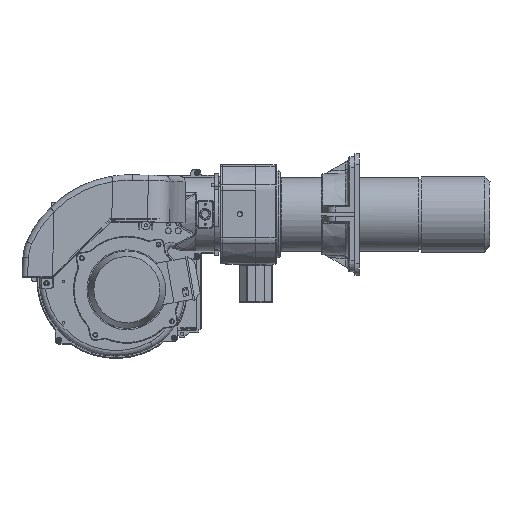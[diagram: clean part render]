
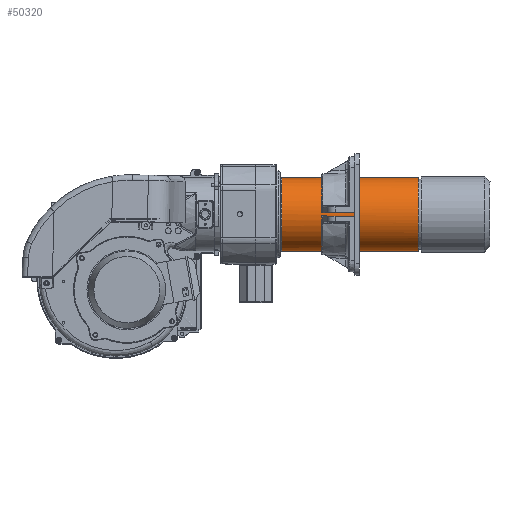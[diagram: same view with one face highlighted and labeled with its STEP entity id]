
A CAD part, top view. The second image highlights one B-rep face of the part: STEP entity #50320.
In plain terms, the highlighted cylindrical face has radius 66.5 mm (diameter 133 mm), a full revolution.
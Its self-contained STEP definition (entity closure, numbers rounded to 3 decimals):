
#4329 = EDGE_CURVE ( 'NONE', #60196, #60196, #85216, .T. ) ;
#5941 = CARTESIAN_POINT ( 'NONE',  ( 280.8, 86.857, -43.945 ) ) ;
#6896 = CARTESIAN_POINT ( 'NONE',  ( 280.8, 132.604, 66.5 ) ) ;
#7253 = CARTESIAN_POINT ( 'NONE',  ( 280.8, 128.252, -66.071 ) ) ;
#7596 = CARTESIAN_POINT ( 'NONE',  ( 280.8, 141.309, -66.5 ) ) ;
#9999 = CARTESIAN_POINT ( 'NONE',  ( 280.8, 145.662, -66.071 ) ) ;
#10459 = CARTESIAN_POINT ( 'NONE',  ( 280.8, 203.028, -8.705 ) ) ;
#10940 = CARTESIAN_POINT ( 'NONE',  ( 280.8, 166.426, 59.772 ) ) ;
#14590 = CARTESIAN_POINT ( 'NONE',  ( 280.8, 119.715, -64.373 ) ) ;
#19732 = CARTESIAN_POINT ( 'NONE',  ( 280.8, 103.63, -57.711 ) ) ;
#21066 = CARTESIAN_POINT ( 'NONE',  ( 280.8, 158.384, -63.104 ) ) ;
#21544 = CARTESIAN_POINT ( 'NONE',  ( 280.8, 203.457, 4.352 ) ) ;
#22018 = CARTESIAN_POINT ( 'NONE',  ( 280.8, 154.199, 64.373 ) ) ;
#22600 = FACE_OUTER_BOUND ( 'NONE', #26718, .T. ) ;
#24092 = B_SPLINE_CURVE_WITH_KNOTS ( 'NONE', 3,
 ( #69522, #6896, #95317, #108983, #109948, #111670, #114484, #115111, #115130, #116695, #118986, #119002, #125096, #136511, #142362, #27374, #54521, #58113, #29073, #83177, #95802, #46472, #62028, #38321, #5941, #107513, #130745, #19732, #103360, #43106, #14590, #7253, #89357, #32593 ),
 .UNSPECIFIED., .F., .F.,
 ( 4, 2, 2, 2, 2, 2, 2, 2, 2, 2, 2, 2, 2, 2, 2, 2, 4 ),
 ( 0., 0.062, 0.125, 0.187, 0.25, 0.312, 0.375, 0.437, 0.5, 0.562, 0.625, 0.688, 0.75, 0.813, 0.875, 0.938, 1. ),
 .UNSPECIFIED. ) ;
#26718 = EDGE_LOOP ( 'NONE', ( #38907, #76484 ) ) ;
#27022 = VERTEX_POINT ( 'NONE', #127994 ) ;
#27059 = FACE_OUTER_BOUND ( 'NONE', #86893, .T. ) ;
#27374 = CARTESIAN_POINT ( 'NONE',  ( 280.8, 70.886, 8.705 ) ) ;
#27588 = CYLINDRICAL_SURFACE ( 'NONE', #85702, 66.5 ) ;
#29073 = CARTESIAN_POINT ( 'NONE',  ( 280.8, 70.886, -8.705 ) ) ;
#29203 = EDGE_CURVE ( 'NONE', #140087, #27022, #24092, .T. ) ;
#32169 = CARTESIAN_POINT ( 'NONE',  ( 280.8, 170.283, -57.711 ) ) ;
#32593 = CARTESIAN_POINT ( 'NONE',  ( 280.8, 136.957, -66.5 ) ) ;
#32645 = CARTESIAN_POINT ( 'NONE',  ( 280.8, 201.33, 17.242 ) ) ;
#33128 = CARTESIAN_POINT ( 'NONE',  ( 280.8, 141.309, 66.5 ) ) ;
#38321 = CARTESIAN_POINT ( 'NONE',  ( 280.8, 84.082, -40.564 ) ) ;
#38907 = ORIENTED_EDGE ( 'NONE', *, *, #74154, .T. ) ;
#42130 = CARTESIAN_POINT ( 'NONE',  ( 528.8, 70.457, 0. ) ) ;
#43106 = CARTESIAN_POINT ( 'NONE',  ( 280.8, 115.53, -63.104 ) ) ;
#43347 = CARTESIAN_POINT ( 'NONE',  ( 280.8, 180.902, -50.1 ) ) ;
#43822 = CARTESIAN_POINT ( 'NONE',  ( 280.8, 196.729, 29.47 ) ) ;
#46472 = CARTESIAN_POINT ( 'NONE',  ( 280.8, 77.185, -29.47 ) ) ;
#50320 = ADVANCED_FACE ( 'NONE', ( #22600, #27059 ), #27588, .T. ) ;
#51021 = CARTESIAN_POINT ( 'NONE',  ( 271.8, 136.957, 0. ) ) ;
#53569 = AXIS2_PLACEMENT_3D ( 'NONE', #103095, #102809, #102776 ) ;
#54413 = CARTESIAN_POINT ( 'NONE',  ( 280.8, 189.832, -40.564 ) ) ;
#54521 = CARTESIAN_POINT ( 'NONE',  ( 280.8, 70.457, 4.352 ) ) ;
#54890 = CARTESIAN_POINT ( 'NONE',  ( 280.8, 189.832, 40.564 ) ) ;
#58113 = CARTESIAN_POINT ( 'NONE',  ( 280.8, 70.457, -4.352 ) ) ;
#60196 = VERTEX_POINT ( 'NONE', #42130 ) ;
#62028 = CARTESIAN_POINT ( 'NONE',  ( 280.8, 79.246, -33.327 ) ) ;
#64927 = CARTESIAN_POINT ( 'NONE',  ( 280.8, 136.957, -66.5 ) ) ;
#65422 = CARTESIAN_POINT ( 'NONE',  ( 280.8, 196.729, -29.47 ) ) ;
#65911 = CARTESIAN_POINT ( 'NONE',  ( 280.8, 180.902, 50.1 ) ) ;
#69522 = CARTESIAN_POINT ( 'NONE',  ( 280.8, 136.957, 66.5 ) ) ;
#74154 = EDGE_CURVE ( 'NONE', #27022, #140087, #115631, .T. ) ;
#75584 = CARTESIAN_POINT ( 'NONE',  ( 280.8, 136.957, 66.5 ) ) ;
#76484 = ORIENTED_EDGE ( 'NONE', *, *, #29203, .T. ) ;
#76489 = CARTESIAN_POINT ( 'NONE',  ( 280.8, 201.33, -17.242 ) ) ;
#76952 = CARTESIAN_POINT ( 'NONE',  ( 280.8, 170.283, 57.711 ) ) ;
#83177 = CARTESIAN_POINT ( 'NONE',  ( 280.8, 72.584, -17.242 ) ) ;
#85216 = CIRCLE ( 'NONE', #53569, 66.5 ) ;
#85702 = AXIS2_PLACEMENT_3D ( 'NONE', #51021, #127611, #116709 ) ;
#86893 = EDGE_LOOP ( 'NONE', ( #114668 ) ) ;
#87000 = CARTESIAN_POINT ( 'NONE',  ( 280.8, 154.199, -64.373 ) ) ;
#87491 = CARTESIAN_POINT ( 'NONE',  ( 280.8, 203.457, -4.352 ) ) ;
#87983 = CARTESIAN_POINT ( 'NONE',  ( 280.8, 158.384, 63.104 ) ) ;
#89357 = CARTESIAN_POINT ( 'NONE',  ( 280.8, 132.604, -66.5 ) ) ;
#95317 = CARTESIAN_POINT ( 'NONE',  ( 280.8, 128.252, 66.071 ) ) ;
#95802 = CARTESIAN_POINT ( 'NONE',  ( 280.8, 73.853, -21.427 ) ) ;
#98070 = CARTESIAN_POINT ( 'NONE',  ( 280.8, 166.426, -59.772 ) ) ;
#98535 = CARTESIAN_POINT ( 'NONE',  ( 280.8, 203.028, 8.705 ) ) ;
#99008 = CARTESIAN_POINT ( 'NONE',  ( 280.8, 145.662, 66.071 ) ) ;
#102776 = DIRECTION ( 'NONE',  ( 0., -1., 0. ) ) ;
#102809 = DIRECTION ( 'NONE',  ( -1., 0., 0. ) ) ;
#103095 = CARTESIAN_POINT ( 'NONE',  ( 528.8, 136.957, 0. ) ) ;
#103360 = CARTESIAN_POINT ( 'NONE',  ( 280.8, 107.487, -59.772 ) ) ;
#107513 = CARTESIAN_POINT ( 'NONE',  ( 280.8, 93.012, -50.1 ) ) ;
#108983 = CARTESIAN_POINT ( 'NONE',  ( 280.8, 119.715, 64.373 ) ) ;
#109036 = CARTESIAN_POINT ( 'NONE',  ( 280.8, 177.521, -52.875 ) ) ;
#109518 = CARTESIAN_POINT ( 'NONE',  ( 280.8, 200.06, 21.427 ) ) ;
#109948 = CARTESIAN_POINT ( 'NONE',  ( 280.8, 115.53, 63.104 ) ) ;
#109999 = CARTESIAN_POINT ( 'NONE',  ( 280.8, 136.957, 66.5 ) ) ;
#111670 = CARTESIAN_POINT ( 'NONE',  ( 280.8, 107.487, 59.772 ) ) ;
#114484 = CARTESIAN_POINT ( 'NONE',  ( 280.8, 103.63, 57.711 ) ) ;
#114668 = ORIENTED_EDGE ( 'NONE', *, *, #4329, .T. ) ;
#115111 = CARTESIAN_POINT ( 'NONE',  ( 280.8, 96.393, 52.875 ) ) ;
#115130 = CARTESIAN_POINT ( 'NONE',  ( 280.8, 93.012, 50.1 ) ) ;
#115631 = B_SPLINE_CURVE_WITH_KNOTS ( 'NONE', 3,
 ( #64927, #7596, #9999, #87000, #21066, #98070, #32169, #109036, #43347, #120005, #54413, #130952, #65422, #141931, #76489, #10459, #87491, #21544, #98535, #32645, #109518, #43822, #120473, #54890, #131436, #65911, #142416, #76952, #10940, #87983, #22018, #99008, #33128, #109999 ),
 .UNSPECIFIED., .F., .F.,
 ( 4, 2, 2, 2, 2, 2, 2, 2, 2, 2, 2, 2, 2, 2, 2, 2, 4 ),
 ( 0., 0.063, 0.125, 0.188, 0.25, 0.313, 0.375, 0.438, 0.5, 0.563, 0.625, 0.688, 0.75, 0.813, 0.875, 0.938, 1. ),
 .UNSPECIFIED. ) ;
#116695 = CARTESIAN_POINT ( 'NONE',  ( 280.8, 86.857, 43.945 ) ) ;
#116709 = DIRECTION ( 'NONE',  ( 0., -1., 0. ) ) ;
#118986 = CARTESIAN_POINT ( 'NONE',  ( 280.8, 84.082, 40.564 ) ) ;
#119002 = CARTESIAN_POINT ( 'NONE',  ( 280.8, 79.246, 33.327 ) ) ;
#120005 = CARTESIAN_POINT ( 'NONE',  ( 280.8, 187.057, -43.945 ) ) ;
#120473 = CARTESIAN_POINT ( 'NONE',  ( 280.8, 194.668, 33.327 ) ) ;
#125096 = CARTESIAN_POINT ( 'NONE',  ( 280.8, 77.185, 29.47 ) ) ;
#127611 = DIRECTION ( 'NONE',  ( -1., 0., 0. ) ) ;
#127994 = CARTESIAN_POINT ( 'NONE',  ( 280.8, 136.957, -66.5 ) ) ;
#130745 = CARTESIAN_POINT ( 'NONE',  ( 280.8, 96.393, -52.875 ) ) ;
#130952 = CARTESIAN_POINT ( 'NONE',  ( 280.8, 194.668, -33.327 ) ) ;
#131436 = CARTESIAN_POINT ( 'NONE',  ( 280.8, 187.057, 43.945 ) ) ;
#136511 = CARTESIAN_POINT ( 'NONE',  ( 280.8, 73.853, 21.427 ) ) ;
#140087 = VERTEX_POINT ( 'NONE', #75584 ) ;
#141931 = CARTESIAN_POINT ( 'NONE',  ( 280.8, 200.06, -21.427 ) ) ;
#142362 = CARTESIAN_POINT ( 'NONE',  ( 280.8, 72.584, 17.242 ) ) ;
#142416 = CARTESIAN_POINT ( 'NONE',  ( 280.8, 177.521, 52.875 ) ) ;
